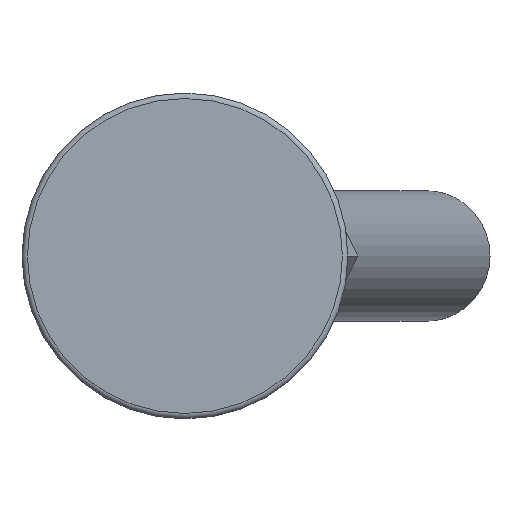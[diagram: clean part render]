
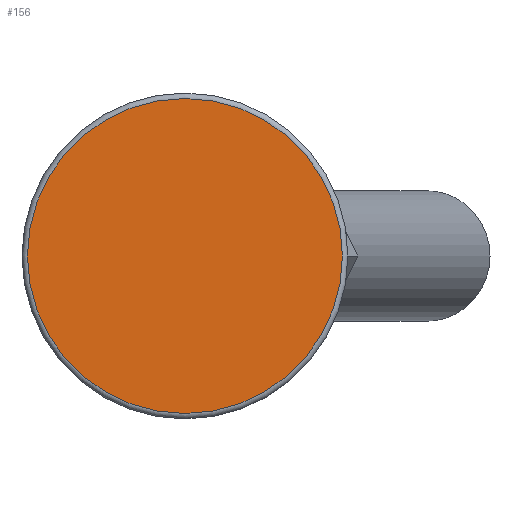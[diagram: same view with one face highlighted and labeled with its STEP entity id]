
A CAD part, front view. The second image highlights one B-rep face of the part: STEP entity #156.
In plain terms, the highlighted planar face has unit normal (0, -1, 0).
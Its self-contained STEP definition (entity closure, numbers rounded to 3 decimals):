
#156 = ADVANCED_FACE( '', ( #317 ), #318, .F. );
#317 = FACE_OUTER_BOUND( '', #513, .T. );
#318 = PLANE( '', #514 );
#513 = EDGE_LOOP( '', ( #739 ) );
#514 = AXIS2_PLACEMENT_3D( '', #740, #741, #742 );
#739 = ORIENTED_EDGE( '', *, *, #1132, .T. );
#740 = CARTESIAN_POINT( '', ( 29., 0., 0. ) );
#741 = DIRECTION( '', ( 0., 1., 0. ) );
#742 = DIRECTION( '', ( 0., 0., 1. ) );
#1132 = EDGE_CURVE( '', #1315, #1315, #1316, .T. );
#1315 = VERTEX_POINT( '', #1648 );
#1316 = CIRCLE( '', #1649, 29. );
#1648 = CARTESIAN_POINT( '', ( 0., 0., -29. ) );
#1649 = AXIS2_PLACEMENT_3D( '', #2040, #2041, #2042 );
#2040 = CARTESIAN_POINT( '', ( 0., 0., 0. ) );
#2041 = DIRECTION( '', ( 0., -1., 0. ) );
#2042 = DIRECTION( '', ( 0., 0., -1. ) );
